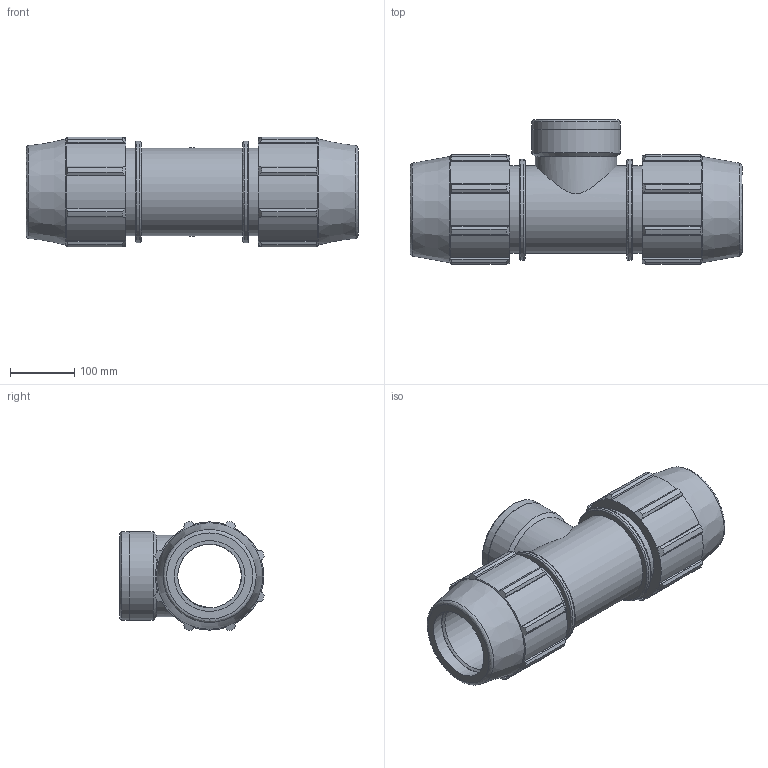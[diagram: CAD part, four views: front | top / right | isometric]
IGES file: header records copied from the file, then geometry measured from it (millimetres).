
Global section: file name: 871400110040_181400110040.ipt; native system: Autodesk Inventor 2015; preprocessor: unknown; author: KIM; date: 20170608.042557; units: millimetre
Bounding box: 516 x 225.15 x 170.31 mm (x, y, z)
Volume: 5190349.3 mm3; surface area: 546577.9 mm2
Topology: 1 solids, 1 shells, 157 faces, 443 edges, 299 vertices
Faces by surface type: plane 79, cylinder 40, cone 23, revolution 15
Full cylindrical faces by diameter (mm): 126.583 x1, 135.75 x3, 137.59 x2, 157.47 x2
